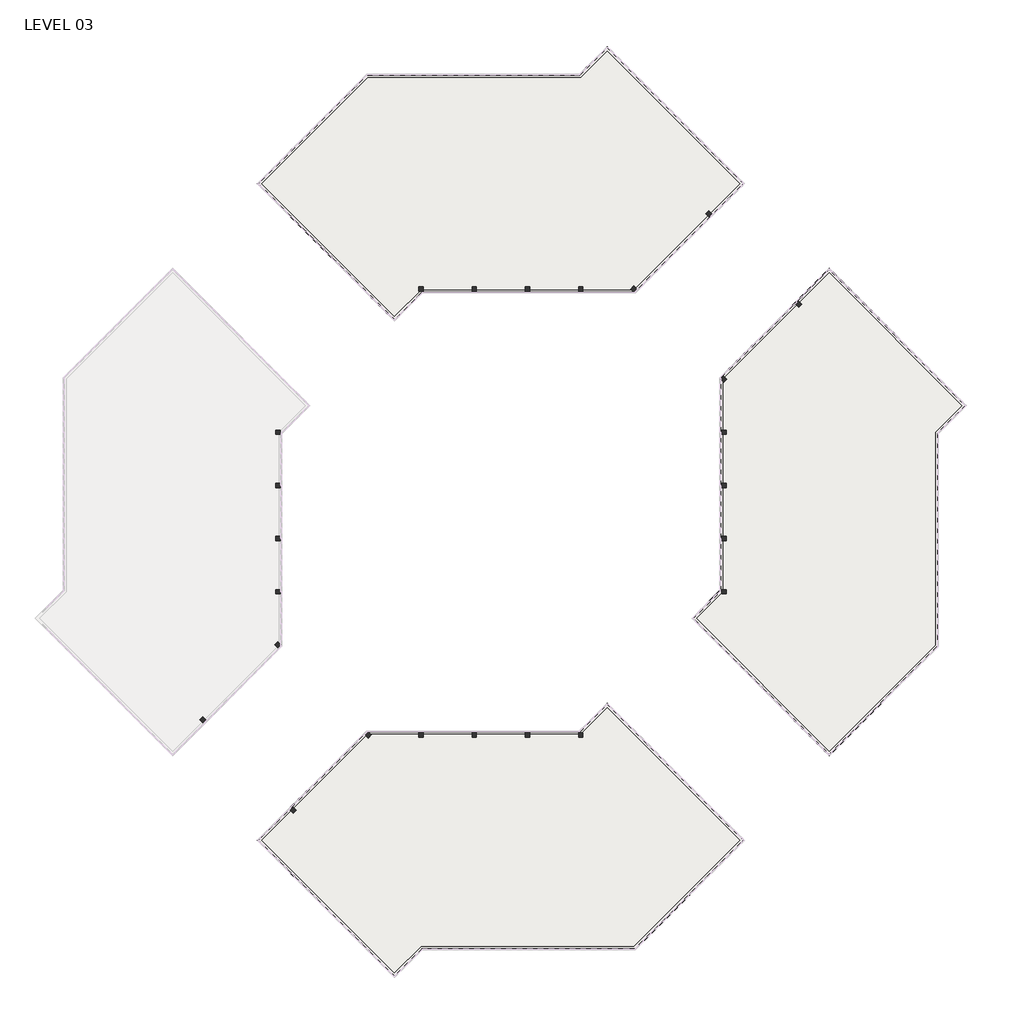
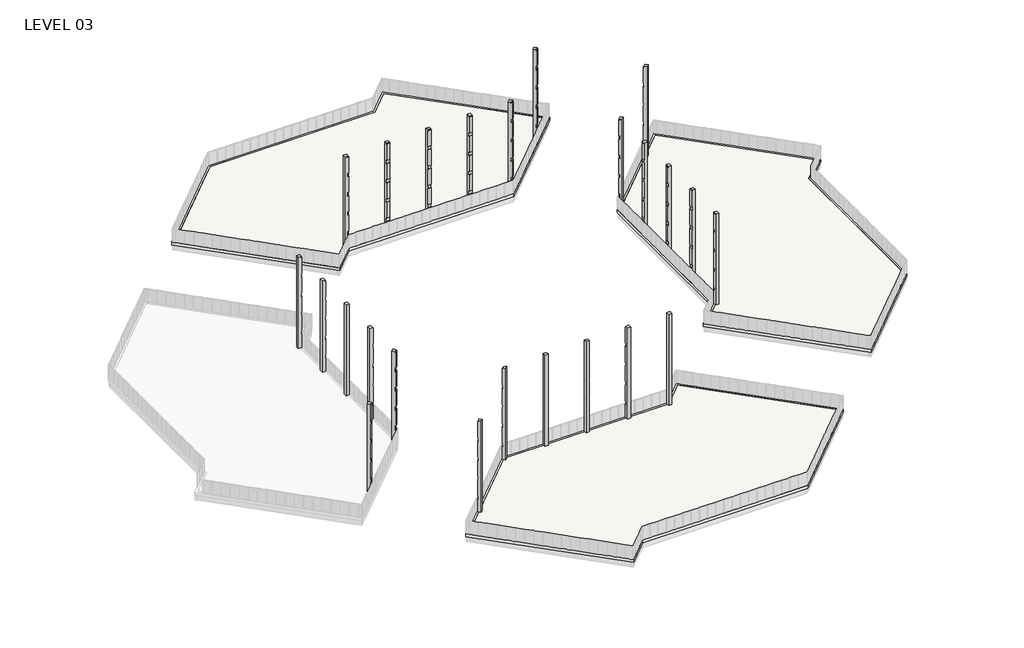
# One storey, part 18 of 18: 24 columns, 6 slabs.
"""IFC4 building model written with IfcOpenShell, lengths in millimetres."""

from ifc_helpers import new_model, si_unit, frame, origin, place, context, project, spatial, polyline, outline, extrude, faceted_brep, element, save

model = new_model("IFC4")

# Units and contexts
model_context = context("Model", 3, world=origin())
ifc_project = project(units=[si_unit("LENGTHUNIT", "METRE", prefix="MILLI")], contexts=[model_context])

# Site, building, storey
site = spatial("IfcSite", under=ifc_project)
building = spatial("IfcBuilding", under=site)
storey = spatial("IfcBuildingStorey", under=building, Name="LEVEL 03", Elevation=8280.4)

# Columns
placement = place(None, origin())
element("IfcColumn", 1, ObjectType="Rectangular Column : 24\" x 24\"", at=placement, inside=storey, context=model_context, shape_type="SweptSolid", body=[
    extrude(outline(polyline([(17830.8, 0.0), (17830.8, -609.6), (0.0, -609.6), (0.0, -50.7999999), (152.4, -50.7999999), (152.4, 0.0), (3302.0, 0.0), (3302.0, -50.7999999), (3924.3, -50.7999999), (3924.3, 0.0), (7073.9, 0.0), (7073.9, -50.7999999), (7696.2, -50.7999999), (7696.2, 0.0), (10845.8, 0.0), (10845.8, -50.7999999), (11468.1, -50.7999999), (11468.1, 0.0), (14617.7, 0.0), (14617.7, -50.7999999), (15240.0, -50.7999999), (15240.0, 0.0), (17830.8, 0.0)])), frame((-359.2102448, 14832.2908231, 26111.2), z_axis=(0.7071067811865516, 0.7071067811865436, 0.0), x_axis=(0.0, 0.0, -1.0)), (0.0, 0.0, 1.0), 609.6),
])
element("IfcColumn", 2, ObjectType="Rectangular Column : 24\" x 24\"", at=placement, inside=storey, context=model_context, shape_type="Brep", body=[
    faceted_brep([(10818.0340979, 26009.5351659, 8280.4), (11249.0863917, 25578.4828721, 8280.4), (10818.0340979, 25147.4305783, 8280.4), (10386.9818041, 25578.4828721, 8280.4), (10818.0340979, 26009.5351659, 10871.2), (10995.0863917, 25832.4828721, 10871.2), (10995.0863917, 25832.4828721, 11493.5), (10818.0340979, 26009.5351659, 11493.5), (10818.0340979, 26009.5351659, 14643.1), (10995.0863917, 25832.4828721, 14643.1), (10995.0863917, 25832.4828721, 15265.4), (10818.0340979, 26009.5351659, 15265.4), (10818.0340979, 26009.5351659, 18415.0), (10995.0863917, 25832.4828721, 18415.0), (10995.0863917, 25832.4828721, 19037.3), (10818.0340979, 26009.5351659, 19037.3), (10818.0340979, 26009.5351659, 22186.9), (10995.0863917, 25832.4828721, 22186.9), (10995.0863917, 25832.4828721, 22809.2), (10818.0340979, 26009.5351659, 22809.2), (10818.0340979, 26009.5351659, 25958.8), (10995.0863917, 25832.4828721, 25958.8), (10995.0863917, 25832.4828721, 26111.2), (11249.0863917, 25578.4828721, 26111.2), (10818.0340979, 25147.4305783, 26111.2), (10422.9028286, 25542.5618476, 26111.2), (10422.9028286, 25542.5618476, 25958.8), (10386.9818041, 25578.4828721, 25958.8), (10386.9818041, 25578.4828721, 22809.2), (10422.9028286, 25542.5618476, 22809.2), (10422.9028286, 25542.5618476, 22186.9), (10386.9818041, 25578.4828721, 22186.9), (10386.9818041, 25578.4828721, 19037.3), (10422.9028286, 25542.5618476, 19037.3), (10422.9028286, 25542.5618476, 18415.0), (10386.9818041, 25578.4828721, 18415.0), (10386.9818041, 25578.4828721, 15265.4), (10422.9028286, 25542.5618476, 15265.4), (10422.9028286, 25542.5618476, 14643.1), (10386.9818041, 25578.4828721, 14643.1), (10386.9818041, 25578.4828721, 11493.5), (10422.9028286, 25542.5618476, 11493.5), (10422.9028286, 25542.5618476, 10871.2), (10386.9818041, 25578.4828721, 10871.2), (10640.9818041, 25832.4828721, 22809.2), (10640.9818041, 25832.4828721, 25958.8), (10712.8238531, 25832.4828721, 26111.2), (10712.8238531, 25832.4828721, 11493.5), (10712.8238531, 25832.4828721, 10871.2), (10640.9818041, 25832.4828721, 10871.2), (10640.9818041, 25832.4828721, 11493.5), (10712.8238531, 25832.4828721, 15265.4), (10712.8238531, 25832.4828721, 14643.1), (10640.9818041, 25832.4828721, 14643.1), (10640.9818041, 25832.4828721, 15265.4), (10712.8238531, 25832.4828721, 19037.3), (10712.8238531, 25832.4828721, 18415.0), (10640.9818041, 25832.4828721, 18415.0), (10640.9818041, 25832.4828721, 19037.3), (10712.8238531, 25832.4828721, 22809.2), (10712.8238531, 25832.4828721, 22186.9), (10640.9818041, 25832.4828721, 22186.9), (10712.8238531, 25832.4828721, 25958.8)], [[[0, 1, 2, 3]], [[1, 0, 4, 5, 6, 7, 8, 9, 10, 11, 12, 13, 14, 15, 16, 17, 18, 19, 20, 21, 22, 23]], [[2, 1, 23, 24]], [[3, 2, 24, 25, 26, 27, 28, 29, 30, 31, 32, 33, 34, 35, 36, 37, 38, 39, 40, 41, 42, 43]], [[44, 28, 27, 45, 20, 19]], [[24, 23, 22, 46, 25]], [[41, 47, 48, 42]], [[42, 48, 49, 43]], [[47, 41, 40, 50]], [[37, 51, 52, 38]], [[38, 52, 53, 39]], [[51, 37, 36, 54]], [[33, 55, 56, 34]], [[34, 56, 57, 35]], [[55, 33, 32, 58]], [[29, 59, 60, 30]], [[30, 60, 61, 31]], [[59, 29, 28, 44]], [[62, 26, 25, 46]], [[26, 62, 45, 27]], [[6, 5, 48, 47]], [[5, 4, 49, 48]], [[7, 6, 47, 50]], [[10, 9, 52, 51]], [[9, 8, 53, 52]], [[11, 10, 51, 54]], [[14, 13, 56, 55]], [[13, 12, 57, 56]], [[15, 14, 55, 58]], [[0, 3, 43, 49, 4]], [[50, 40, 39, 53, 8, 7]], [[54, 36, 35, 57, 12, 11]], [[59, 18, 17, 60]], [[60, 17, 16, 61]], [[18, 59, 44, 19]], [[58, 32, 31, 61, 16, 15]], [[21, 62, 46, 22]], [[62, 21, 20, 45]]]),
])
element("IfcColumn", 3, ObjectType="Rectangular Column : 24\" x 24\"", at=placement, inside=storey, context=model_context, shape_type="SweptSolid", body=[
    extrude(outline(polyline([(25883.2828721, 8280.4), (25273.6828721, 8280.4), (25273.6828721, 26111.2), (25832.4828721, 26111.2), (25832.4828721, 25958.8), (25883.2828721, 25958.8), (25883.2828721, 22809.2), (25832.4828721, 22809.2), (25832.4828721, 22186.9), (25883.2828721, 22186.9), (25883.2828721, 19037.3), (25832.4828721, 19037.3), (25832.4828721, 18415.0), (25883.2828721, 18415.0), (25883.2828721, 15265.4), (25832.4828721, 15265.4), (25832.4828721, 14643.1), (25883.2828721, 14643.1), (25883.2828721, 11493.5), (25832.4828721, 11493.5), (25832.4828721, 10871.2), (25883.2828721, 10871.2), (25883.2828721, 8280.4)])), frame((18091.15, 0.0, 0.0), z_axis=(1.0, 0.0, 0.0), x_axis=(0.0, 1.0, 0.0)), (0.0, 0.0, 1.0), 609.6),
])
element("IfcColumn", 4, ObjectType="Rectangular Column : 24\" x 24\"", at=placement, inside=storey, context=model_context, shape_type="SweptSolid", body=[
    extrude(outline(polyline([(25883.2828721, 8280.4), (25273.6828721, 8280.4), (25273.6828721, 26111.2), (25832.4828721, 26111.2), (25832.4828721, 25958.8), (25883.2828721, 25958.8), (25883.2828721, 22809.2), (25832.4828721, 22809.2), (25832.4828721, 22186.9), (25883.2828721, 22186.9), (25883.2828721, 19037.3), (25832.4828721, 19037.3), (25832.4828721, 18415.0), (25883.2828721, 18415.0), (25883.2828721, 15265.4), (25832.4828721, 15265.4), (25832.4828721, 14643.1), (25883.2828721, 14643.1), (25883.2828721, 11493.5), (25832.4828721, 11493.5), (25832.4828721, 10871.2), (25883.2828721, 10871.2), (25883.2828721, 8280.4)])), frame((25711.15, 0.0, 0.0), z_axis=(1.0, 0.0, 0.0), x_axis=(0.0, 1.0, 0.0)), (0.0, 0.0, 1.0), 609.6),
])
element("IfcColumn", 5, ObjectType="Rectangular Column : 24\" x 24\"", at=placement, inside=storey, context=model_context, shape_type="SweptSolid", body=[
    extrude(outline(polyline([(25883.2828721, 8280.4), (25273.6828721, 8280.4), (25273.6828721, 26111.2), (25832.4828721, 26111.2), (25832.4828721, 25958.8), (25883.2828721, 25958.8), (25883.2828721, 22809.2), (25832.4828721, 22809.2), (25832.4828721, 22186.9), (25883.2828721, 22186.9), (25883.2828721, 19037.3), (25832.4828721, 19037.3), (25832.4828721, 18415.0), (25883.2828721, 18415.0), (25883.2828721, 15265.4), (25832.4828721, 15265.4), (25832.4828721, 14643.1), (25883.2828721, 14643.1), (25883.2828721, 11493.5), (25832.4828721, 11493.5), (25832.4828721, 10871.2), (25883.2828721, 10871.2), (25883.2828721, 8280.4)])), frame((33331.15, 0.0, 0.0), z_axis=(1.0, 0.0, 0.0), x_axis=(0.0, 1.0, 0.0)), (0.0, 0.0, 1.0), 609.6),
])
element("IfcColumn", 6, ObjectType="Rectangular Column : 24\" x 24\"", at=placement, inside=storey, context=model_context, shape_type="Brep", body=[
    faceted_brep([(41560.75, 25883.2828721, 8280.4), (41560.75, 25273.6828721, 8280.4), (40951.15, 25273.6828721, 8280.4), (40951.15, 25883.2828721, 8280.4), (41560.75, 25883.2828721, 26111.2), (41560.75, 25273.6828721, 26111.2), (40951.15, 25273.6828721, 26111.2), (40951.15, 25832.4828721, 26111.2), (40951.15, 25832.4828721, 25958.8), (40951.15, 25883.2828721, 25958.8), (40951.15, 25883.2828721, 22809.2), (40951.15, 25832.4828721, 22809.2), (40951.15, 25832.4828721, 22186.9), (40951.15, 25883.2828721, 22186.9), (40951.15, 25883.2828721, 19037.3), (40951.15, 25832.4828721, 19037.3), (40951.15, 25832.4828721, 18415.0), (40951.15, 25883.2828721, 18415.0), (40951.15, 25883.2828721, 15265.4), (40951.15, 25832.4828721, 15265.4), (40951.15, 25832.4828721, 14643.1), (40951.15, 25883.2828721, 14643.1), (40951.15, 25883.2828721, 11493.5), (40951.15, 25832.4828721, 11493.5), (40951.15, 25832.4828721, 10871.2), (40951.15, 25883.2828721, 10871.2), (41243.6238531, 25883.2828721, 10871.2), (41243.6238531, 25883.2828721, 11493.5), (41243.6238531, 25883.2828721, 14643.1), (41243.6238531, 25883.2828721, 15265.4), (41243.6238531, 25883.2828721, 18415.0), (41243.6238531, 25883.2828721, 19037.3), (41243.6238531, 25883.2828721, 22186.9), (41243.6238531, 25883.2828721, 22809.2), (41243.6238531, 25883.2828721, 25958.8), (41243.6238531, 25883.2828721, 26111.2), (41192.8238531, 25832.4828721, 26111.2), (41192.8238531, 25832.4828721, 11493.5), (41192.8238531, 25832.4828721, 10871.2), (41192.8238531, 25832.4828721, 15265.4), (41192.8238531, 25832.4828721, 14643.1), (41192.8238531, 25832.4828721, 19037.3), (41192.8238531, 25832.4828721, 18415.0), (41192.8238531, 25832.4828721, 22809.2), (41192.8238531, 25832.4828721, 22186.9), (41192.8238531, 25832.4828721, 25958.8)], [[[0, 1, 2, 3]], [[1, 0, 4, 5]], [[2, 1, 5, 6]], [[3, 2, 6, 7, 8, 9, 10, 11, 12, 13, 14, 15, 16, 17, 18, 19, 20, 21, 22, 23, 24, 25]], [[0, 3, 25, 26, 27, 22, 21, 28, 29, 18, 17, 30, 31, 14, 13, 32, 33, 10, 9, 34, 35, 4]], [[5, 4, 35, 36, 7, 6]], [[37, 38, 24, 23]], [[24, 38, 26, 25]], [[37, 23, 22, 27]], [[38, 37, 27, 26]], [[39, 40, 20, 19]], [[20, 40, 28, 21]], [[39, 19, 18, 29]], [[40, 39, 29, 28]], [[41, 42, 16, 15]], [[16, 42, 30, 17]], [[41, 15, 14, 31]], [[42, 41, 31, 30]], [[43, 44, 12, 11]], [[12, 44, 32, 13]], [[43, 11, 10, 33]], [[44, 43, 33, 32]], [[36, 45, 8, 7]], [[8, 45, 34, 9]], [[45, 36, 35, 34]]]),
])
element("IfcColumn", 7, ObjectType="Rectangular Column : 24\" x 24\"", at=placement, inside=storey, context=model_context, shape_type="SweptSolid", body=[
    extrude(outline(polyline([(17830.8, 609.6000001), (17830.8, 0.0), (0.0, 0.0), (0.0, 558.8000001), (152.4, 558.8000001), (152.4, 609.6000001), (3302.0, 609.6000001), (3302.0, 558.8000001), (3924.3, 558.8000001), (3924.3, 609.6000001), (7073.9, 609.6000001), (7073.9, 558.8000001), (7696.2, 558.8000001), (7696.2, 609.6000001), (10845.8, 609.6000001), (10845.8, 558.8000001), (11468.1, 558.8000001), (11468.1, 609.6000001), (14617.7, 609.6000001), (14617.7, 558.8000001), (15240.0, 558.8000001), (15240.0, 609.6000001), (17830.8, 609.6000001)])), frame((72511.6267654, 86841.0232457, 26111.2), z_axis=(0.707106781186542, 0.7071067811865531, 0.0), x_axis=(0.0, 0.0, -1.0)), (0.0, 0.0, 1.0), 609.6),
])
element("IfcColumn", 8, ObjectType="Rectangular Column : 24\" x 24\"", at=placement, inside=storey, context=model_context, shape_type="Brep", body=[
    faceted_brep([(61765.4347164, 76094.8311968, 8280.4), (61334.3824226, 76525.8834906, 8280.4), (61765.4347164, 76956.9357844, 8280.4), (62196.4870102, 76525.8834906, 8280.4), (61765.4347164, 76094.8311968, 26111.2), (61511.4347164, 76348.8311968, 26111.2), (61511.4347164, 76348.8311968, 25958.8), (61334.3824226, 76525.8834906, 25958.8), (61334.3824226, 76525.8834906, 22809.2), (61511.4347164, 76348.8311968, 22809.2), (61511.4347164, 76348.8311968, 22186.9), (61334.3824226, 76525.8834906, 22186.9), (61334.3824226, 76525.8834906, 19037.3), (61511.4347164, 76348.8311968, 19037.3), (61511.4347164, 76348.8311968, 18415.0), (61334.3824226, 76525.8834906, 18415.0), (61334.3824226, 76525.8834906, 15265.4), (61511.4347164, 76348.8311968, 15265.4), (61511.4347164, 76348.8311968, 14643.1), (61334.3824226, 76525.8834906, 14643.1), (61334.3824226, 76525.8834906, 11493.5), (61511.4347164, 76348.8311968, 11493.5), (61511.4347164, 76348.8311968, 10871.2), (61334.3824226, 76525.8834906, 10871.2), (62196.4870102, 76525.8834906, 26111.2), (61765.4347164, 76956.9357844, 10871.2), (61801.3557409, 76921.0147599, 10871.2), (61801.3557409, 76921.0147599, 11493.5), (61765.4347164, 76956.9357844, 11493.5), (61765.4347164, 76956.9357844, 14643.1), (61801.3557409, 76921.0147599, 14643.1), (61801.3557409, 76921.0147599, 15265.4), (61765.4347164, 76956.9357844, 15265.4), (61765.4347164, 76956.9357844, 18415.0), (61801.3557409, 76921.0147599, 18415.0), (61801.3557409, 76921.0147599, 19037.3), (61765.4347164, 76956.9357844, 19037.3), (61765.4347164, 76956.9357844, 22186.9), (61801.3557409, 76921.0147599, 22186.9), (61801.3557409, 76921.0147599, 22809.2), (61765.4347164, 76956.9357844, 22809.2), (61765.4347164, 76956.9357844, 25958.8), (61801.3557409, 76921.0147599, 25958.8), (61801.3557409, 76921.0147599, 26111.2), (61511.4347164, 76702.9357844, 22809.2), (61511.4347164, 76702.9357844, 25958.8), (61511.4347164, 76631.0937354, 26111.2), (61511.4347164, 76702.9357844, 10871.2), (61511.4347164, 76631.0937354, 10871.2), (61511.4347164, 76631.0937354, 11493.5), (61511.4347164, 76702.9357844, 11493.5), (61511.4347164, 76702.9357844, 14643.1), (61511.4347164, 76631.0937354, 14643.1), (61511.4347164, 76631.0937354, 15265.4), (61511.4347164, 76702.9357844, 15265.4), (61511.4347164, 76702.9357844, 18415.0), (61511.4347164, 76631.0937354, 18415.0), (61511.4347164, 76631.0937354, 19037.3), (61511.4347164, 76702.9357844, 19037.3), (61511.4347164, 76702.9357844, 22186.9), (61511.4347164, 76631.0937354, 22186.9), (61511.4347164, 76631.0937354, 22809.2), (61511.4347164, 76631.0937354, 25958.8)], [[[0, 1, 2, 3]], [[1, 0, 4, 5, 6, 7, 8, 9, 10, 11, 12, 13, 14, 15, 16, 17, 18, 19, 20, 21, 22, 23]], [[0, 3, 24, 4]], [[3, 2, 25, 26, 27, 28, 29, 30, 31, 32, 33, 34, 35, 36, 37, 38, 39, 40, 41, 42, 43, 24]], [[40, 44, 8, 7, 45, 41]], [[4, 24, 43, 46, 5]], [[26, 25, 47, 48]], [[28, 27, 49, 50]], [[30, 29, 51, 52]], [[32, 31, 53, 54]], [[34, 33, 55, 56]], [[36, 35, 57, 58]], [[38, 37, 59, 60]], [[40, 39, 61, 44]], [[42, 41, 45, 62]], [[23, 22, 48, 47]], [[21, 20, 50, 49]], [[19, 18, 52, 51]], [[17, 16, 54, 53]], [[15, 14, 56, 55]], [[13, 12, 58, 57]], [[2, 1, 23, 47, 25]], [[28, 50, 20, 19, 51, 29]], [[32, 54, 16, 15, 55, 33]], [[11, 10, 60, 59]], [[9, 8, 44, 61]], [[36, 58, 12, 11, 59, 37]], [[6, 62, 45, 7]], [[26, 48, 49, 27]], [[30, 52, 53, 31]], [[34, 56, 57, 35]], [[38, 60, 61, 39]], [[42, 62, 46, 43]], [[48, 22, 21, 49]], [[52, 18, 17, 53]], [[56, 14, 13, 57]], [[60, 10, 9, 61]], [[62, 6, 5, 46]]]),
])
element("IfcColumn", 9, ObjectType="Rectangular Column : 24\" x 24\"", at=placement, inside=storey, context=model_context, shape_type="SweptSolid", body=[
    extrude(outline(polyline([(8280.4, 61460.6347164), (8280.4, 62070.2347164), (26111.2, 62070.2347164), (26111.2, 61511.4347164), (25958.8, 61511.4347164), (25958.8, 61460.6347164), (22809.2, 61460.6347164), (22809.2, 61511.4347164), (22186.9, 61511.4347164), (22186.9, 61460.6347164), (19037.3, 61460.6347164), (19037.3, 61511.4347164), (18415.0, 61511.4347164), (18415.0, 61460.6347164), (15265.4, 61460.6347164), (15265.4, 61511.4347164), (14643.1, 61511.4347164), (14643.1, 61460.6347164), (11493.5, 61460.6347164), (11493.5, 61511.4347164), (10871.2, 61511.4347164), (10871.2, 61460.6347164), (8280.4, 61460.6347164)])), frame((0.0, 68643.1675885, 0.0), z_axis=(0.0, 1.0, 0.0), x_axis=(0.0, 0.0, 1.0)), (0.0, 0.0, 1.0), 609.6),
])
element("IfcColumn", 10, ObjectType="Rectangular Column : 24\" x 24\"", at=placement, inside=storey, context=model_context, shape_type="SweptSolid", body=[
    extrude(outline(polyline([(8280.4, 61460.6347164), (8280.4, 62070.2347164), (26111.2, 62070.2347164), (26111.2, 61511.4347164), (25958.8, 61511.4347164), (25958.8, 61460.6347164), (22809.2, 61460.6347164), (22809.2, 61511.4347164), (22186.9, 61511.4347164), (22186.9, 61460.6347164), (19037.3, 61460.6347164), (19037.3, 61511.4347164), (18415.0, 61511.4347164), (18415.0, 61460.6347164), (15265.4, 61460.6347164), (15265.4, 61511.4347164), (14643.1, 61511.4347164), (14643.1, 61460.6347164), (11493.5, 61460.6347164), (11493.5, 61511.4347164), (10871.2, 61511.4347164), (10871.2, 61460.6347164), (8280.4, 61460.6347164)])), frame((0.0, 61023.1675885, 0.0), z_axis=(0.0, 1.0, 0.0), x_axis=(0.0, 0.0, 1.0)), (0.0, 0.0, 1.0), 609.6),
])
element("IfcColumn", 11, ObjectType="Rectangular Column : 24\" x 24\"", at=placement, inside=storey, context=model_context, shape_type="SweptSolid", body=[
    extrude(outline(polyline([(8280.4, 61460.6347164), (8280.4, 62070.2347164), (26111.2, 62070.2347164), (26111.2, 61511.4347164), (25958.8, 61511.4347164), (25958.8, 61460.6347164), (22809.2, 61460.6347164), (22809.2, 61511.4347164), (22186.9, 61511.4347164), (22186.9, 61460.6347164), (19037.3, 61460.6347164), (19037.3, 61511.4347164), (18415.0, 61511.4347164), (18415.0, 61460.6347164), (15265.4, 61460.6347164), (15265.4, 61511.4347164), (14643.1, 61511.4347164), (14643.1, 61460.6347164), (11493.5, 61460.6347164), (11493.5, 61511.4347164), (10871.2, 61511.4347164), (10871.2, 61460.6347164), (8280.4, 61460.6347164)])), frame((0.0, 53403.1675885, 0.0), z_axis=(0.0, 1.0, 0.0), x_axis=(0.0, 0.0, 1.0)), (0.0, 0.0, 1.0), 609.6),
])
element("IfcColumn", 12, ObjectType="Rectangular Column : 24\" x 24\"", at=placement, inside=storey, context=model_context, shape_type="Brep", body=[
    faceted_brep([(62070.2347164, 45783.1675885, 8280.4), (61460.6347164, 45783.1675885, 8280.4), (61460.6347164, 46392.7675885, 8280.4), (62070.2347164, 46392.7675885, 8280.4), (62070.2347164, 45783.1675885, 26111.2), (61460.6347164, 45783.1675885, 26111.2), (62070.2347164, 46392.7675885, 26111.2), (61460.6347164, 46392.7675885, 10871.2), (61511.4347164, 46392.7675885, 10871.2), (61511.4347164, 46392.7675885, 11493.5), (61460.6347164, 46392.7675885, 11493.5), (61460.6347164, 46392.7675885, 14643.1), (61511.4347164, 46392.7675885, 14643.1), (61511.4347164, 46392.7675885, 15265.4), (61460.6347164, 46392.7675885, 15265.4), (61460.6347164, 46392.7675885, 18415.0), (61511.4347164, 46392.7675885, 18415.0), (61511.4347164, 46392.7675885, 19037.3), (61460.6347164, 46392.7675885, 19037.3), (61460.6347164, 46392.7675885, 22186.9), (61511.4347164, 46392.7675885, 22186.9), (61511.4347164, 46392.7675885, 22809.2), (61460.6347164, 46392.7675885, 22809.2), (61460.6347164, 46392.7675885, 25958.8), (61511.4347164, 46392.7675885, 25958.8), (61511.4347164, 46392.7675885, 26111.2), (61460.6347164, 46100.2937354, 26111.2), (61460.6347164, 46100.2937354, 25958.8), (61460.6347164, 46100.2937354, 22809.2), (61460.6347164, 46100.2937354, 22186.9), (61460.6347164, 46100.2937354, 19037.3), (61460.6347164, 46100.2937354, 18415.0), (61460.6347164, 46100.2937354, 15265.4), (61460.6347164, 46100.2937354, 14643.1), (61460.6347164, 46100.2937354, 11493.5), (61460.6347164, 46100.2937354, 10871.2), (61511.4347164, 46151.0937354, 26111.2), (61511.4347164, 46151.0937354, 10871.2), (61511.4347164, 46151.0937354, 11493.5), (61511.4347164, 46151.0937354, 14643.1), (61511.4347164, 46151.0937354, 15265.4), (61511.4347164, 46151.0937354, 18415.0), (61511.4347164, 46151.0937354, 19037.3), (61511.4347164, 46151.0937354, 22186.9), (61511.4347164, 46151.0937354, 22809.2), (61511.4347164, 46151.0937354, 25958.8)], [[[0, 1, 2, 3]], [[1, 0, 4, 5]], [[0, 3, 6, 4]], [[3, 2, 7, 8, 9, 10, 11, 12, 13, 14, 15, 16, 17, 18, 19, 20, 21, 22, 23, 24, 25, 6]], [[2, 1, 5, 26, 27, 23, 22, 28, 29, 19, 18, 30, 31, 15, 14, 32, 33, 11, 10, 34, 35, 7]], [[5, 4, 6, 25, 36, 26]], [[35, 37, 8, 7]], [[38, 34, 10, 9]], [[38, 37, 35, 34]], [[33, 39, 12, 11]], [[40, 32, 14, 13]], [[40, 39, 33, 32]], [[31, 41, 16, 15]], [[42, 30, 18, 17]], [[42, 41, 31, 30]], [[29, 43, 20, 19]], [[44, 28, 22, 21]], [[44, 43, 29, 28]], [[27, 45, 24, 23]], [[45, 27, 26, 36]], [[37, 38, 9, 8]], [[39, 40, 13, 12]], [[41, 42, 17, 16]], [[43, 44, 21, 20]], [[24, 45, 36, 25]]]),
])
element("IfcColumn", 13, ObjectType="Rectangular Column : 24\" x 24\"", at=placement, inside=storey, context=model_context, shape_type="SweptSolid", body=[
    extrude(outline(polyline([(17830.8, 0.0), (17830.8, -609.6), (15240.0, -609.6), (15240.0, -558.8), (14617.7, -558.8), (14617.7, -609.6), (11468.1, -609.6), (11468.1, -558.8), (10845.8, -558.8), (10845.8, -609.6), (7696.2, -609.6), (7696.2, -558.8), (7073.9, -558.8), (7073.9, -609.6), (3924.3, -609.6), (3924.3, -558.8), (3302.0, -558.8), (3302.0, -609.6), (152.4, -609.6), (152.4, -558.8), (0.0, -558.8), (0.0, 0.0), (17830.8, 0.0)])), frame((59149.0056572, 100203.6443539, 26111.2), z_axis=(0.7071067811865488, 0.7071067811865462, 0.0), x_axis=(0.0, 0.0, -1.0)), (0.0, 0.0, 1.0), 609.6),
])
element("IfcColumn", 14, ObjectType="Rectangular Column : 24\" x 24\"", at=placement, inside=storey, context=model_context, shape_type="Brep", body=[
    faceted_brep([(48833.8659021, 89026.4000111, 8280.4), (48402.8136083, 89457.4523049, 8280.4), (48833.8659021, 89888.5045987, 8280.4), (49264.9181959, 89457.4523049, 8280.4), (48833.8659021, 89026.4000111, 10871.2), (48656.8136083, 89203.4523049, 10871.2), (48656.8136083, 89203.4523049, 11493.5), (48833.8659021, 89026.4000111, 11493.5), (48833.8659021, 89026.4000111, 14643.1), (48656.8136083, 89203.4523049, 14643.1), (48656.8136083, 89203.4523049, 15265.4), (48833.8659021, 89026.4000111, 15265.4), (48833.8659021, 89026.4000111, 18415.0), (48656.8136083, 89203.4523049, 18415.0), (48656.8136083, 89203.4523049, 19037.3), (48833.8659021, 89026.4000111, 19037.3), (48833.8659021, 89026.4000111, 22186.9), (48656.8136083, 89203.4523049, 22186.9), (48656.8136083, 89203.4523049, 22809.2), (48833.8659021, 89026.4000111, 22809.2), (48833.8659021, 89026.4000111, 25958.8), (48656.8136083, 89203.4523049, 25958.8), (48656.8136083, 89203.4523049, 26111.2), (48402.8136083, 89457.4523049, 26111.2), (48833.8659021, 89888.5045987, 26111.2), (49228.9971714, 89493.3733294, 26111.2), (49228.9971714, 89493.3733294, 25958.8), (49264.9181959, 89457.4523049, 25958.8), (49264.9181959, 89457.4523049, 22809.2), (49228.9971714, 89493.3733294, 22809.2), (49228.9971714, 89493.3733294, 22186.9), (49264.9181959, 89457.4523049, 22186.9), (49264.9181959, 89457.4523049, 19037.3), (49228.9971714, 89493.3733294, 19037.3), (49228.9971714, 89493.3733294, 18415.0), (49264.9181959, 89457.4523049, 18415.0), (49264.9181959, 89457.4523049, 15265.4), (49228.9971714, 89493.3733294, 15265.4), (49228.9971714, 89493.3733294, 14643.1), (49264.9181959, 89457.4523049, 14643.1), (49264.9181959, 89457.4523049, 11493.5), (49228.9971714, 89493.3733294, 11493.5), (49228.9971714, 89493.3733294, 10871.2), (49264.9181959, 89457.4523049, 10871.2), (49010.9181959, 89203.4523049, 22809.2), (49010.9181959, 89203.4523049, 25958.8), (48939.0761469, 89203.4523049, 26111.2), (48939.0761469, 89203.4523049, 10871.2), (49010.9181959, 89203.4523049, 10871.2), (49010.9181959, 89203.4523049, 11493.5), (48939.0761469, 89203.4523049, 11493.5), (48939.0761469, 89203.4523049, 14643.1), (49010.9181959, 89203.4523049, 14643.1), (49010.9181959, 89203.4523049, 15265.4), (48939.0761469, 89203.4523049, 15265.4), (48939.0761469, 89203.4523049, 18415.0), (49010.9181959, 89203.4523049, 18415.0), (49010.9181959, 89203.4523049, 19037.3), (48939.0761469, 89203.4523049, 19037.3), (48939.0761469, 89203.4523049, 22186.9), (49010.9181959, 89203.4523049, 22186.9), (48939.0761469, 89203.4523049, 22809.2), (48939.0761469, 89203.4523049, 25958.8)], [[[0, 1, 2, 3]], [[1, 0, 4, 5, 6, 7, 8, 9, 10, 11, 12, 13, 14, 15, 16, 17, 18, 19, 20, 21, 22, 23]], [[2, 1, 23, 24]], [[3, 2, 24, 25, 26, 27, 28, 29, 30, 31, 32, 33, 34, 35, 36, 37, 38, 39, 40, 41, 42, 43]], [[44, 28, 27, 45, 20, 19]], [[24, 23, 22, 46, 25]], [[43, 42, 47, 48]], [[41, 40, 49, 50]], [[39, 38, 51, 52]], [[37, 36, 53, 54]], [[35, 34, 55, 56]], [[33, 32, 57, 58]], [[31, 30, 59, 60]], [[29, 28, 44, 61]], [[27, 26, 62, 45]], [[5, 4, 48, 47]], [[7, 6, 50, 49]], [[9, 8, 52, 51]], [[11, 10, 54, 53]], [[13, 12, 56, 55]], [[15, 14, 58, 57]], [[0, 3, 43, 48, 4]], [[49, 40, 39, 52, 8, 7]], [[53, 36, 35, 56, 12, 11]], [[17, 16, 60, 59]], [[19, 18, 61, 44]], [[57, 32, 31, 60, 16, 15]], [[62, 21, 20, 45]], [[41, 50, 47, 42]], [[37, 54, 51, 38]], [[33, 58, 55, 34]], [[29, 61, 59, 30]], [[62, 26, 25, 46]], [[50, 6, 5, 47]], [[54, 10, 9, 51]], [[58, 14, 13, 55]], [[61, 18, 17, 59]], [[21, 62, 46, 22]]]),
])
element("IfcColumn", 15, ObjectType="Rectangular Column : 24\" x 24\"", at=placement, inside=storey, context=model_context, shape_type="SweptSolid", body=[
    extrude(outline(polyline([(89762.2523049, 8280.4), (89152.6523049, 8280.4), (89152.6523049, 10871.2), (89203.4523049, 10871.2), (89203.4523049, 11493.5), (89152.6523049, 11493.5), (89152.6523049, 14643.1), (89203.4523049, 14643.1), (89203.4523049, 15265.4), (89152.6523049, 15265.4), (89152.6523049, 18415.0), (89203.4523049, 18415.0), (89203.4523049, 19037.3), (89152.6523049, 19037.3), (89152.6523049, 22186.9), (89203.4523049, 22186.9), (89203.4523049, 22809.2), (89152.6523049, 22809.2), (89152.6523049, 25958.8), (89203.4523049, 25958.8), (89203.4523049, 26111.2), (89762.2523049, 26111.2), (89762.2523049, 8280.4)])), frame((40951.15, 0.0, 0.0), z_axis=(1.0, 0.0, 0.0), x_axis=(0.0, 1.0, 0.0)), (0.0, 0.0, 1.0), 609.6),
])
element("IfcColumn", 16, ObjectType="Rectangular Column : 24\" x 24\"", at=placement, inside=storey, context=model_context, shape_type="SweptSolid", body=[
    extrude(outline(polyline([(89762.2523049, 8280.4), (89152.6523049, 8280.4), (89152.6523049, 10871.2), (89203.4523049, 10871.2), (89203.4523049, 11493.5), (89152.6523049, 11493.5), (89152.6523049, 14643.1), (89203.4523049, 14643.1), (89203.4523049, 15265.4), (89152.6523049, 15265.4), (89152.6523049, 18415.0), (89203.4523049, 18415.0), (89203.4523049, 19037.3), (89152.6523049, 19037.3), (89152.6523049, 22186.9), (89203.4523049, 22186.9), (89203.4523049, 22809.2), (89152.6523049, 22809.2), (89152.6523049, 25958.8), (89203.4523049, 25958.8), (89203.4523049, 26111.2), (89762.2523049, 26111.2), (89762.2523049, 8280.4)])), frame((33331.15, 0.0, 0.0), z_axis=(1.0, 0.0, 0.0), x_axis=(0.0, 1.0, 0.0)), (0.0, 0.0, 1.0), 609.6),
])
element("IfcColumn", 17, ObjectType="Rectangular Column : 24\" x 24\"", at=placement, inside=storey, context=model_context, shape_type="SweptSolid", body=[
    extrude(outline(polyline([(89762.2523049, 8280.4), (89152.6523049, 8280.4), (89152.6523049, 10871.2), (89203.4523049, 10871.2), (89203.4523049, 11493.5), (89152.6523049, 11493.5), (89152.6523049, 14643.1), (89203.4523049, 14643.1), (89203.4523049, 15265.4), (89152.6523049, 15265.4), (89152.6523049, 18415.0), (89203.4523049, 18415.0), (89203.4523049, 19037.3), (89152.6523049, 19037.3), (89152.6523049, 22186.9), (89203.4523049, 22186.9), (89203.4523049, 22809.2), (89152.6523049, 22809.2), (89152.6523049, 25958.8), (89203.4523049, 25958.8), (89203.4523049, 26111.2), (89762.2523049, 26111.2), (89762.2523049, 8280.4)])), frame((25711.15, 0.0, 0.0), z_axis=(1.0, 0.0, 0.0), x_axis=(0.0, 1.0, 0.0)), (0.0, 0.0, 1.0), 609.6),
])
element("IfcColumn", 18, ObjectType="Rectangular Column : 24\" x 24\"", at=placement, inside=storey, context=model_context, shape_type="Brep", body=[
    faceted_brep([(18091.15, 89152.6523049, 8280.4), (18091.15, 89762.2523049, 8280.4), (18700.75, 89762.2523049, 8280.4), (18700.75, 89152.6523049, 8280.4), (18091.15, 89152.6523049, 26111.2), (18091.15, 89762.2523049, 26111.2), (18700.75, 89762.2523049, 26111.2), (18700.75, 89203.4523049, 26111.2), (18700.75, 89203.4523049, 25958.8), (18700.75, 89152.6523049, 25958.8), (18700.75, 89152.6523049, 22809.2), (18700.75, 89203.4523049, 22809.2), (18700.75, 89203.4523049, 22186.9), (18700.75, 89152.6523049, 22186.9), (18700.75, 89152.6523049, 19037.3), (18700.75, 89203.4523049, 19037.3), (18700.75, 89203.4523049, 18415.0), (18700.75, 89152.6523049, 18415.0), (18700.75, 89152.6523049, 15265.4), (18700.75, 89203.4523049, 15265.4), (18700.75, 89203.4523049, 14643.1), (18700.75, 89152.6523049, 14643.1), (18700.75, 89152.6523049, 11493.5), (18700.75, 89203.4523049, 11493.5), (18700.75, 89203.4523049, 10871.2), (18700.75, 89152.6523049, 10871.2), (18408.2761469, 89152.6523049, 10871.2), (18408.2761469, 89152.6523049, 11493.5), (18408.2761469, 89152.6523049, 14643.1), (18408.2761469, 89152.6523049, 15265.4), (18408.2761469, 89152.6523049, 18415.0), (18408.2761469, 89152.6523049, 19037.3), (18408.2761469, 89152.6523049, 22186.9), (18408.2761469, 89152.6523049, 22809.2), (18408.2761469, 89152.6523049, 25958.8), (18408.2761469, 89152.6523049, 26111.2), (18459.0761469, 89203.4523049, 26111.2), (18459.0761469, 89203.4523049, 10871.2), (18459.0761469, 89203.4523049, 11493.5), (18459.0761469, 89203.4523049, 14643.1), (18459.0761469, 89203.4523049, 15265.4), (18459.0761469, 89203.4523049, 18415.0), (18459.0761469, 89203.4523049, 19037.3), (18459.0761469, 89203.4523049, 22186.9), (18459.0761469, 89203.4523049, 22809.2), (18459.0761469, 89203.4523049, 25958.8)], [[[0, 1, 2, 3]], [[1, 0, 4, 5]], [[2, 1, 5, 6]], [[3, 2, 6, 7, 8, 9, 10, 11, 12, 13, 14, 15, 16, 17, 18, 19, 20, 21, 22, 23, 24, 25]], [[0, 3, 25, 26, 27, 22, 21, 28, 29, 18, 17, 30, 31, 14, 13, 32, 33, 10, 9, 34, 35, 4]], [[5, 4, 35, 36, 7, 6]], [[37, 26, 25, 24]], [[27, 38, 23, 22]], [[37, 38, 27, 26]], [[39, 28, 21, 20]], [[29, 40, 19, 18]], [[39, 40, 29, 28]], [[41, 30, 17, 16]], [[31, 42, 15, 14]], [[41, 42, 31, 30]], [[43, 32, 13, 12]], [[33, 44, 11, 10]], [[43, 44, 33, 32]], [[45, 34, 9, 8]], [[34, 45, 36, 35]], [[38, 37, 24, 23]], [[40, 39, 20, 19]], [[42, 41, 16, 15]], [[44, 43, 12, 11]], [[36, 45, 8, 7]]]),
])
element("IfcColumn", 19, ObjectType="Rectangular Column : 24\" x 24\"", at=placement, inside=storey, context=model_context, shape_type="SweptSolid", body=[
    extrude(outline(polyline([(17830.8, 609.6), (17830.8, 0.0), (15240.0, 0.0), (15240.0, 50.8), (14617.7, 50.8), (14617.7, 0.0), (11468.1, 0.0), (11468.1, 50.8), (10845.8, 50.8), (10845.8, 0.0), (7696.2, 0.0), (7696.2, 50.8), (7073.9, 50.8), (7073.9, 0.0), (3924.3, 0.0), (3924.3, 50.8), (3302.0, 50.8), (3302.0, 0.0), (152.4, 0.0), (152.4, 50.8), (0.0, 50.8), (0.0, 609.6), (17830.8, 609.6)])), frame((-12859.7267654, 27332.8073437, 26111.2), z_axis=(0.7071067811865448, 0.7071067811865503, 0.0), x_axis=(0.0, 0.0, -1.0)), (0.0, 0.0, 1.0), 609.6),
])
element("IfcColumn", 20, ObjectType="Rectangular Column : 24\" x 24\"", at=placement, inside=storey, context=model_context, shape_type="Brep", body=[
    faceted_brep([(-2113.5347164, 38941.1039803, 8280.4), (-1682.4824226, 38510.0516865, 8280.4), (-2113.5347164, 38078.9993926, 8280.4), (-2544.5870102, 38510.0516865, 8280.4), (-2113.5347164, 38941.1039803, 26111.2), (-1859.5347164, 38687.1039803, 26111.2), (-1859.5347164, 38687.1039803, 25958.8), (-1682.4824226, 38510.0516865, 25958.8), (-1682.4824226, 38510.0516865, 22809.2), (-1859.5347164, 38687.1039803, 22809.2), (-1859.5347164, 38687.1039803, 22186.9), (-1682.4824226, 38510.0516865, 22186.9), (-1682.4824226, 38510.0516865, 19037.3), (-1859.5347164, 38687.1039803, 19037.3), (-1859.5347164, 38687.1039803, 18415.0), (-1682.4824226, 38510.0516865, 18415.0), (-1682.4824226, 38510.0516865, 15265.4), (-1859.5347164, 38687.1039803, 15265.4), (-1859.5347164, 38687.1039803, 14643.1), (-1682.4824226, 38510.0516865, 14643.1), (-1682.4824226, 38510.0516865, 11493.5), (-1859.5347164, 38687.1039803, 11493.5), (-1859.5347164, 38687.1039803, 10871.2), (-1682.4824226, 38510.0516865, 10871.2), (-2544.5870102, 38510.0516865, 26111.2), (-2113.5347164, 38078.9993926, 10871.2), (-2149.4557409, 38114.9204171, 10871.2), (-2149.4557409, 38114.9204171, 11493.5), (-2113.5347164, 38078.9993926, 11493.5), (-2113.5347164, 38078.9993926, 14643.1), (-2149.4557409, 38114.9204171, 14643.1), (-2149.4557409, 38114.9204171, 15265.4), (-2113.5347164, 38078.9993926, 15265.4), (-2113.5347164, 38078.9993926, 18415.0), (-2149.4557409, 38114.9204171, 18415.0), (-2149.4557409, 38114.9204171, 19037.3), (-2113.5347164, 38078.9993926, 19037.3), (-2113.5347164, 38078.9993926, 22186.9), (-2149.4557409, 38114.9204171, 22186.9), (-2149.4557409, 38114.9204171, 22809.2), (-2113.5347164, 38078.9993926, 22809.2), (-2113.5347164, 38078.9993926, 25958.8), (-2149.4557409, 38114.9204171, 25958.8), (-2149.4557409, 38114.9204171, 26111.2), (-1859.5347164, 38332.9993926, 22809.2), (-1859.5347164, 38332.9993926, 25958.8), (-1859.5347164, 38404.8414416, 26111.2), (-1859.5347164, 38332.9993926, 10871.2), (-1859.5347164, 38404.8414416, 10871.2), (-1859.5347164, 38404.8414416, 11493.5), (-1859.5347164, 38332.9993926, 11493.5), (-1859.5347164, 38332.9993926, 14643.1), (-1859.5347164, 38404.8414416, 14643.1), (-1859.5347164, 38404.8414416, 15265.4), (-1859.5347164, 38332.9993926, 15265.4), (-1859.5347164, 38332.9993926, 18415.0), (-1859.5347164, 38404.8414416, 18415.0), (-1859.5347164, 38404.8414416, 19037.3), (-1859.5347164, 38332.9993926, 19037.3), (-1859.5347164, 38332.9993926, 22186.9), (-1859.5347164, 38404.8414416, 22186.9), (-1859.5347164, 38404.8414416, 22809.2), (-1859.5347164, 38404.8414416, 25958.8)], [[[0, 1, 2, 3]], [[1, 0, 4, 5, 6, 7, 8, 9, 10, 11, 12, 13, 14, 15, 16, 17, 18, 19, 20, 21, 22, 23]], [[0, 3, 24, 4]], [[3, 2, 25, 26, 27, 28, 29, 30, 31, 32, 33, 34, 35, 36, 37, 38, 39, 40, 41, 42, 43, 24]], [[40, 44, 8, 7, 45, 41]], [[4, 24, 43, 46, 5]], [[26, 25, 47, 48]], [[28, 27, 49, 50]], [[30, 29, 51, 52]], [[32, 31, 53, 54]], [[34, 33, 55, 56]], [[36, 35, 57, 58]], [[38, 37, 59, 60]], [[40, 39, 61, 44]], [[42, 41, 45, 62]], [[23, 22, 48, 47]], [[21, 20, 50, 49]], [[19, 18, 52, 51]], [[17, 16, 54, 53]], [[15, 14, 56, 55]], [[13, 12, 58, 57]], [[2, 1, 23, 47, 25]], [[28, 50, 20, 19, 51, 29]], [[32, 54, 16, 15, 55, 33]], [[11, 10, 60, 59]], [[9, 8, 44, 61]], [[36, 58, 12, 11, 59, 37]], [[6, 62, 45, 7]], [[26, 48, 49, 27]], [[30, 52, 53, 31]], [[34, 56, 57, 35]], [[38, 60, 61, 39]], [[42, 62, 46, 43]], [[48, 22, 21, 49]], [[52, 18, 17, 53]], [[56, 14, 13, 57]], [[60, 10, 9, 61]], [[62, 6, 5, 46]]]),
])
element("IfcColumn", 21, ObjectType="Rectangular Column : 24\" x 24\"", at=placement, inside=storey, context=model_context, shape_type="SweptSolid", body=[
    extrude(outline(polyline([(8280.4, -2418.3347164), (8280.4, -1808.7347164), (10871.2, -1808.7347164), (10871.2, -1859.5347164), (11493.5, -1859.5347164), (11493.5, -1808.7347164), (14643.1, -1808.7347164), (14643.1, -1859.5347164), (15265.4, -1859.5347164), (15265.4, -1808.7347164), (18415.0, -1808.7347164), (18415.0, -1859.5347164), (19037.3, -1859.5347164), (19037.3, -1808.7347164), (22186.9, -1808.7347164), (22186.9, -1859.5347164), (22809.2, -1859.5347164), (22809.2, -1808.7347164), (25958.8, -1808.7347164), (25958.8, -1859.5347164), (26111.2, -1859.5347164), (26111.2, -2418.3347164), (8280.4, -2418.3347164)])), frame((0.0, 45783.1675885, 0.0), z_axis=(0.0, 1.0, 0.0), x_axis=(0.0, 0.0, 1.0)), (0.0, 0.0, 1.0), 609.6),
])
element("IfcColumn", 22, ObjectType="Rectangular Column : 24\" x 24\"", at=placement, inside=storey, context=model_context, shape_type="SweptSolid", body=[
    extrude(outline(polyline([(8280.4, -2418.3347164), (8280.4, -1808.7347164), (10871.2, -1808.7347164), (10871.2, -1859.5347164), (11493.5, -1859.5347164), (11493.5, -1808.7347164), (14643.1, -1808.7347164), (14643.1, -1859.5347164), (15265.4, -1859.5347164), (15265.4, -1808.7347164), (18415.0, -1808.7347164), (18415.0, -1859.5347164), (19037.3, -1859.5347164), (19037.3, -1808.7347164), (22186.9, -1808.7347164), (22186.9, -1859.5347164), (22809.2, -1859.5347164), (22809.2, -1808.7347164), (25958.8, -1808.7347164), (25958.8, -1859.5347164), (26111.2, -1859.5347164), (26111.2, -2418.3347164), (8280.4, -2418.3347164)])), frame((0.0, 53403.1675885, 0.0), z_axis=(0.0, 1.0, 0.0), x_axis=(0.0, 0.0, 1.0)), (0.0, 0.0, 1.0), 609.6),
])
element("IfcColumn", 23, ObjectType="Rectangular Column : 24\" x 24\"", at=placement, inside=storey, context=model_context, shape_type="SweptSolid", body=[
    extrude(outline(polyline([(8280.4, -2418.3347164), (8280.4, -1808.7347164), (10871.2, -1808.7347164), (10871.2, -1859.5347164), (11493.5, -1859.5347164), (11493.5, -1808.7347164), (14643.1, -1808.7347164), (14643.1, -1859.5347164), (15265.4, -1859.5347164), (15265.4, -1808.7347164), (18415.0, -1808.7347164), (18415.0, -1859.5347164), (19037.3, -1859.5347164), (19037.3, -1808.7347164), (22186.9, -1808.7347164), (22186.9, -1859.5347164), (22809.2, -1859.5347164), (22809.2, -1808.7347164), (25958.8, -1808.7347164), (25958.8, -1859.5347164), (26111.2, -1859.5347164), (26111.2, -2418.3347164), (8280.4, -2418.3347164)])), frame((0.0, 61023.1675885, 0.0), z_axis=(0.0, 1.0, 0.0), x_axis=(0.0, 0.0, 1.0)), (0.0, 0.0, 1.0), 609.6),
])
element("IfcColumn", 24, ObjectType="Rectangular Column : 24\" x 24\"", at=placement, inside=storey, context=model_context, shape_type="Brep", body=[
    faceted_brep([(-2418.3347164, 69252.7675885, 8280.4), (-1808.7347164, 69252.7675885, 8280.4), (-1808.7347164, 68643.1675885, 8280.4), (-2418.3347164, 68643.1675885, 8280.4), (-2418.3347164, 69252.7675885, 26111.2), (-1808.7347164, 69252.7675885, 26111.2), (-2418.3347164, 68643.1675885, 26111.2), (-1808.7347164, 68643.1675885, 10871.2), (-1859.5347164, 68643.1675885, 10871.2), (-1859.5347164, 68643.1675885, 11493.5), (-1808.7347164, 68643.1675885, 11493.5), (-1808.7347164, 68643.1675885, 14643.1), (-1859.5347164, 68643.1675885, 14643.1), (-1859.5347164, 68643.1675885, 15265.4), (-1808.7347164, 68643.1675885, 15265.4), (-1808.7347164, 68643.1675885, 18415.0), (-1859.5347164, 68643.1675885, 18415.0), (-1859.5347164, 68643.1675885, 19037.3), (-1808.7347164, 68643.1675885, 19037.3), (-1808.7347164, 68643.1675885, 22186.9), (-1859.5347164, 68643.1675885, 22186.9), (-1859.5347164, 68643.1675885, 22809.2), (-1808.7347164, 68643.1675885, 22809.2), (-1808.7347164, 68643.1675885, 25958.8), (-1859.5347164, 68643.1675885, 25958.8), (-1859.5347164, 68643.1675885, 26111.2), (-1808.7347164, 68935.6414416, 26111.2), (-1808.7347164, 68935.6414416, 25958.8), (-1808.7347164, 68935.6414416, 22809.2), (-1808.7347164, 68935.6414416, 22186.9), (-1808.7347164, 68935.6414416, 19037.3), (-1808.7347164, 68935.6414416, 18415.0), (-1808.7347164, 68935.6414416, 15265.4), (-1808.7347164, 68935.6414416, 14643.1), (-1808.7347164, 68935.6414416, 11493.5), (-1808.7347164, 68935.6414416, 10871.2), (-1859.5347164, 68884.8414416, 26111.2), (-1859.5347164, 68884.8414416, 10871.2), (-1859.5347164, 68884.8414416, 11493.5), (-1859.5347164, 68884.8414416, 14643.1), (-1859.5347164, 68884.8414416, 15265.4), (-1859.5347164, 68884.8414416, 18415.0), (-1859.5347164, 68884.8414416, 19037.3), (-1859.5347164, 68884.8414416, 22186.9), (-1859.5347164, 68884.8414416, 22809.2), (-1859.5347164, 68884.8414416, 25958.8)], [[[0, 1, 2, 3]], [[1, 0, 4, 5]], [[0, 3, 6, 4]], [[3, 2, 7, 8, 9, 10, 11, 12, 13, 14, 15, 16, 17, 18, 19, 20, 21, 22, 23, 24, 25, 6]], [[2, 1, 5, 26, 27, 23, 22, 28, 29, 19, 18, 30, 31, 15, 14, 32, 33, 11, 10, 34, 35, 7]], [[5, 4, 6, 25, 36, 26]], [[35, 37, 8, 7]], [[38, 34, 10, 9]], [[38, 37, 35, 34]], [[33, 39, 12, 11]], [[40, 32, 14, 13]], [[40, 39, 33, 32]], [[31, 41, 16, 15]], [[42, 30, 18, 17]], [[42, 41, 31, 30]], [[29, 43, 20, 19]], [[44, 28, 22, 21]], [[44, 43, 29, 28]], [[27, 45, 24, 23]], [[45, 27, 26, 36]], [[37, 38, 9, 8]], [[39, 40, 13, 12]], [[41, 42, 17, 16]], [[43, 44, 21, 20]], [[24, 45, 36, 25]]]),
])

# Slabs
element("IfcSlab", 25, ObjectType="1'10\" Concrete Slab", at=placement, inside=storey, context=model_context, shape_type="SweptSolid", body=[
    extrude(outline(polyline([(-5056.6534407, 10494.0578721), (10586.5715593, 26137.2828721), (41066.5715593, 26137.2828721), (45065.95, 30136.6613128), (64708.5534407, 10494.0578721), (49065.3284407, -5149.1671279), (18585.3284407, -5149.1671279), (14585.95, -9148.5455686), (-5056.6534407, 10494.0578721)]), holes=[polyline([(41255.95, 25680.0828721), (10775.95, 25680.0828721), (-4410.075, 10494.0578721), (14585.95, -8501.9671279), (18395.95, -4691.9671279), (48875.95, -4691.9671279), (64061.975, 10494.0578721), (45065.95, 29490.0828721), (41255.95, 25680.0828721)])]), frame((0.0, 0.0, 7721.6), z_axis=(0.0, 0.0, 1.0), x_axis=(1.0, 0.0, 0.0)), (0.0, 0.0, 1.0), 558.8),
])
element("IfcSlab", 26, ObjectType="1'10\" Concrete Slab", at=placement, inside=storey, context=model_context, shape_type="SweptSolid", body=[
    extrude(outline(polyline([(76849.8597164, 92400.5710292), (96492.4631571, 72757.9675885), (92493.0847164, 68758.5891478), (92493.0847164, 38278.5891478), (76849.8597164, 22635.3641478), (57207.2562757, 42277.9675885), (61206.6347164, 46277.3460292), (61206.6347164, 76757.3460292), (76849.8597164, 92400.5710292)]), holes=[polyline([(61663.8347164, 46087.9675885), (57853.8347164, 42277.9675885), (76849.8597164, 23281.9425885), (92035.8847164, 38467.9675885), (92035.8847164, 68947.9675885), (95845.8847164, 72757.9675885), (76849.8597164, 91753.9925885), (61663.8347164, 76567.9675885), (61663.8347164, 46087.9675885)])]), frame((0.0, 0.0, 7721.6), z_axis=(0.0, 0.0, 1.0), x_axis=(1.0, 0.0, 0.0)), (0.0, 0.0, 1.0), 558.8),
])
element("IfcSlab", 27, ObjectType="1'10\" Concrete Slab", at=placement, inside=storey, context=model_context, shape_type="SweptSolid", body=[
    extrude(outline(polyline([(64708.5534407, 104541.8773049), (49065.3284407, 88898.6523049), (18585.3284407, 88898.6523049), (14585.95, 84899.2738642), (-5056.6534407, 104541.8773049), (10586.5715593, 120185.1023049), (41066.5715593, 120185.1023049), (45065.95, 124184.4807456), (64708.5534407, 104541.8773049)]), holes=[polyline([(18395.95, 89355.8523049), (48875.95, 89355.8523049), (64061.975, 104541.8773049), (45065.95, 123537.9023049), (41255.95, 119727.9023049), (10775.95, 119727.9023049), (-4410.075, 104541.8773049), (14585.95, 85545.8523049), (18395.95, 89355.8523049)])]), frame((0.0, 0.0, 7721.6), z_axis=(0.0, 0.0, 1.0), x_axis=(1.0, 0.0, 0.0)), (0.0, 0.0, 1.0), 558.8),
])
element("IfcSlab", 28, ObjectType="2\" Concrete Slab", at=placement, inside=storey, context=model_context, shape_type="SweptSolid", body=[
    extrude(outline(polyline([(10775.95, 25680.0828721), (41255.95, 25680.0828721), (45065.95, 29490.0828721), (64061.975, 10494.0578721), (48875.95, -4691.9671279), (18395.95, -4691.9671279), (14585.95, -8501.9671279), (-4410.075, 10494.0578721), (10775.95, 25680.0828721)])), frame((0.0, 0.0, 8229.6), z_axis=(0.0, 0.0, 1.0), x_axis=(1.0, 0.0, 0.0)), (0.0, 0.0, 1.0), 50.8),
])
element("IfcSlab", 29, ObjectType="2\" Concrete Slab", at=placement, inside=storey, context=model_context, shape_type="SweptSolid", body=[
    extrude(outline(polyline([(61663.8347164, 76567.9675885), (76849.8597164, 91753.9925885), (95845.8847164, 72757.9675885), (92035.8847164, 68947.9675885), (92035.8847164, 38467.9675885), (76849.8597164, 23281.9425885), (57853.8347164, 42277.9675885), (61663.8347164, 46087.9675885), (61663.8347164, 76567.9675885)])), frame((0.0, 0.0, 8229.6), z_axis=(0.0, 0.0, 1.0), x_axis=(1.0, 0.0, 0.0)), (0.0, 0.0, 1.0), 50.8),
])
element("IfcSlab", 30, ObjectType="2\" Concrete Slab", at=placement, inside=storey, context=model_context, shape_type="SweptSolid", body=[
    extrude(outline(polyline([(48875.95, 89355.8523049), (18395.95, 89355.8523049), (14585.95, 85545.8523049), (-4410.075, 104541.8773049), (10775.95, 119727.9023049), (41255.95, 119727.9023049), (45065.95, 123537.9023049), (64061.975, 104541.8773049), (48875.95, 89355.8523049)])), frame((0.0, 0.0, 8229.6), z_axis=(0.0, 0.0, 1.0), x_axis=(1.0, 0.0, 0.0)), (0.0, 0.0, 1.0), 50.8),
])

save(model, "model.ifc")
